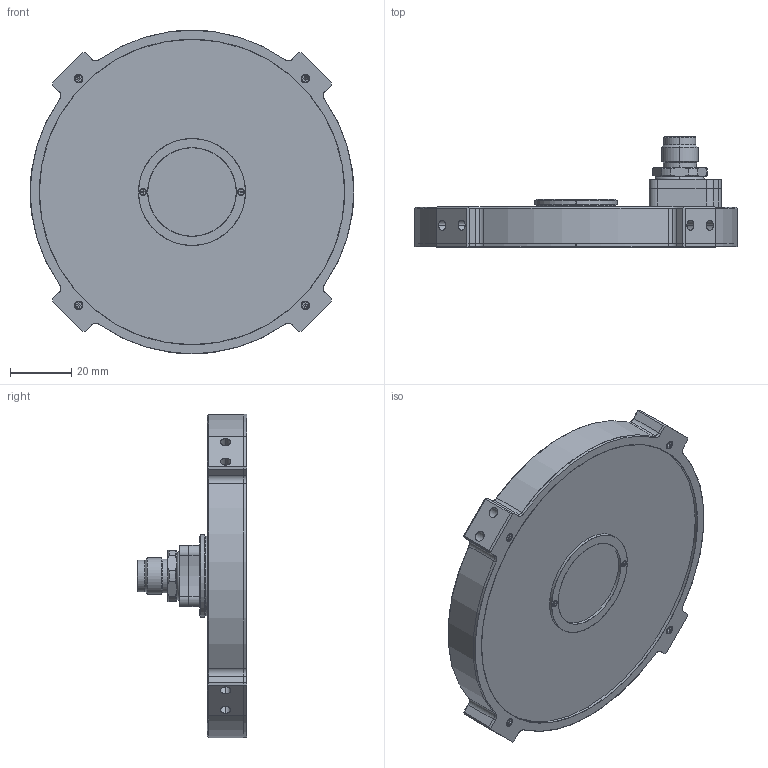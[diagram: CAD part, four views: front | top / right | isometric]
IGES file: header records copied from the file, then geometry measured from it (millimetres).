
Start section: SolidWorks IGES file using analytic representation for surfaces
Global section: file name: C:\Users\user\AppData\Local\Temp\tmpbx1rjwf1\VRBP-10035-PL_Drawing_L1214A-A00102.SLDPRT.IGS; native system: SolidWorks 2018; preprocessor: SolidWorks 2018; author: user; date: 240712.150907; units: millimetre
Bounding box: 106 x 36 x 106 mm (x, y, z)
Surface area: 28743.4 mm2 (no closed solid volume)
Topology: 0 solids, 0 shells, 467 faces, 4684 edges, 4674 vertices
Faces by surface type: bspline 250, revolution 217
